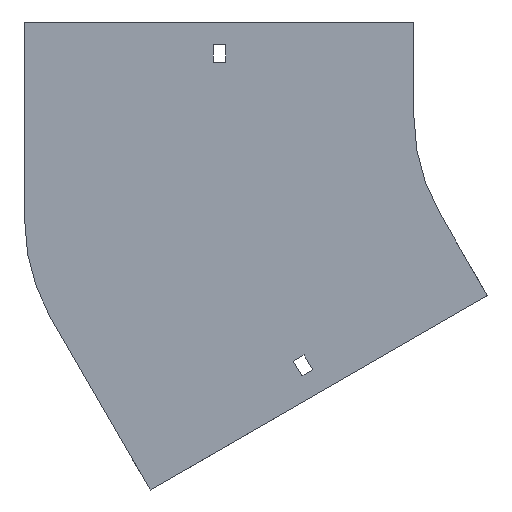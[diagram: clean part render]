
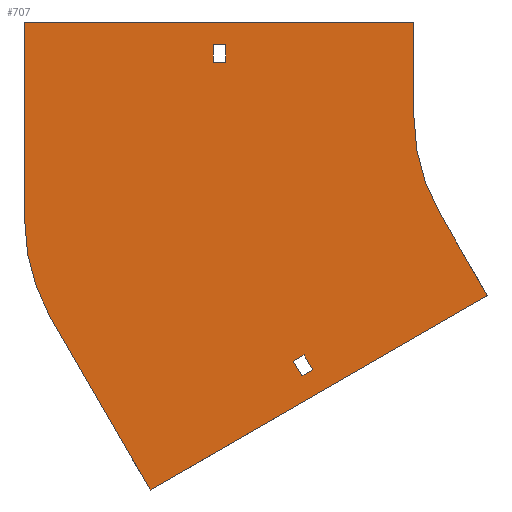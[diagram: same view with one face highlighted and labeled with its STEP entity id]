
A CAD part, front view. The second image highlights one B-rep face of the part: STEP entity #707.
In plain terms, the highlighted planar face has unit normal (0, -1, 0).
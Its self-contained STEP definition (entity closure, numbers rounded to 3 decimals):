
#18 = EDGE_LOOP ( 'NONE', ( #1804, #112, #1460, #864 ) ) ;
#42 = CARTESIAN_POINT ( 'NONE',  ( 0., 0., 0. ) ) ;
#53 = CARTESIAN_POINT ( 'NONE',  ( -157.623, 0., -124.49 ) ) ;
#59 = CARTESIAN_POINT ( 'NONE',  ( -238.272, 0., -195.301 ) ) ;
#63 = EDGE_CURVE ( 'NONE', #1700, #638, #305, .T. ) ;
#77 = CARTESIAN_POINT ( 'NONE',  ( -100., 0., 50. ) ) ;
#90 = VERTEX_POINT ( 'NONE', #1204 ) ;
#105 = LINE ( 'NONE', #1760, #539 ) ;
#112 = ORIENTED_EDGE ( 'NONE', *, *, #1373, .T. ) ;
#114 = CARTESIAN_POINT ( 'NONE',  ( -304., 0., 50. ) ) ;
#123 = CARTESIAN_POINT ( 'NONE',  ( -153.123, 0., -132.284 ) ) ;
#127 = VERTEX_POINT ( 'NONE', #212 ) ;
#132 = CARTESIAN_POINT ( 'NONE',  ( -205.25, 0., 38. ) ) ;
#148 = DIRECTION ( 'NONE',  ( 0., 0., -1. ) ) ;
#149 = LINE ( 'NONE', #447, #1203 ) ;
#151 = DIRECTION ( 'NONE',  ( -0.5, 0., 0.866 ) ) ;
#156 = EDGE_CURVE ( 'NONE', #685, #1714, #834, .T. ) ;
#195 = CARTESIAN_POINT ( 'NONE',  ( -205.25, 0., 29. ) ) ;
#199 = VECTOR ( 'NONE', #1859, 1000. ) ;
#212 = CARTESIAN_POINT ( 'NONE',  ( -205.25, 0., 29. ) ) ;
#242 = VECTOR ( 'NONE', #475, 1000. ) ;
#260 = ORIENTED_EDGE ( 'NONE', *, *, #63, .F. ) ;
#266 = EDGE_CURVE ( 'NONE', #90, #525, #105, .T. ) ;
#279 = CARTESIAN_POINT ( 'NONE',  ( -100., 0., 50. ) ) ;
#285 = CIRCLE ( 'NONE', #1296, 100. ) ;
#293 = DIRECTION ( 'NONE',  ( 0.866, 0., 0.5 ) ) ;
#300 = PLANE ( 'NONE',  #1785 ) ;
#305 = LINE ( 'NONE', #627, #1344 ) ;
#316 = VERTEX_POINT ( 'NONE', #550 ) ;
#349 = VECTOR ( 'NONE', #1086, 1000. ) ;
#360 = EDGE_CURVE ( 'NONE', #735, #316, #1752, .T. ) ;
#361 = ORIENTED_EDGE ( 'NONE', *, *, #1485, .F. ) ;
#397 = EDGE_CURVE ( 'NONE', #316, #1700, #1345, .T. ) ;
#398 = CARTESIAN_POINT ( 'NONE',  ( -86.603, 0., -50. ) ) ;
#400 = CARTESIAN_POINT ( 'NONE',  ( -163.252, 0., -127.74 ) ) ;
#409 = VECTOR ( 'NONE', #972, 1000. ) ;
#436 = VERTEX_POINT ( 'NONE', #767 ) ;
#445 = EDGE_CURVE ( 'NONE', #1388, #436, #1510, .T. ) ;
#447 = CARTESIAN_POINT ( 'NONE',  ( -163.252, 0., -127.74 ) ) ;
#456 = EDGE_CURVE ( 'NONE', #1575, #1049, #1672, .T. ) ;
#471 = LINE ( 'NONE', #928, #349 ) ;
#475 = DIRECTION ( 'NONE',  ( -1., 0., 0. ) ) ;
#499 = DIRECTION ( 'NONE',  ( 0., -1., 0. ) ) ;
#525 = VERTEX_POINT ( 'NONE', #831 ) ;
#539 = VECTOR ( 'NONE', #1775, 1000. ) ;
#550 = CARTESIAN_POINT ( 'NONE',  ( -158.752, 0., -135.534 ) ) ;
#568 = ORIENTED_EDGE ( 'NONE', *, *, #1659, .F. ) ;
#570 = EDGE_LOOP ( 'NONE', ( #568, #1629, #361, #1284, #1717, #1365, #732, #985 ) ) ;
#574 = EDGE_LOOP ( 'NONE', ( #635, #1290, #1249, #260 ) ) ;
#594 = FACE_BOUND ( 'NONE', #18, .T. ) ;
#598 = DIRECTION ( 'NONE',  ( -0.866, 0., -0.5 ) ) ;
#627 = CARTESIAN_POINT ( 'NONE',  ( -157.623, 0., -124.49 ) ) ;
#635 = ORIENTED_EDGE ( 'NONE', *, *, #397, .F. ) ;
#638 = VERTEX_POINT ( 'NONE', #53 ) ;
#653 = DIRECTION ( 'NONE',  ( -0.5, 0., 0.866 ) ) ;
#682 = CARTESIAN_POINT ( 'NONE',  ( -204., 0., -54.662 ) ) ;
#685 = VERTEX_POINT ( 'NONE', #279 ) ;
#707 = ADVANCED_FACE ( 'NONE', ( #594, #1650, #1940 ), #300, .T. ) ;
#716 = VECTOR ( 'NONE', #954, 1000. ) ;
#732 = ORIENTED_EDGE ( 'NONE', *, *, #1759, .F. ) ;
#735 = VERTEX_POINT ( 'NONE', #882 ) ;
#765 = EDGE_CURVE ( 'NONE', #127, #1658, #1853, .T. ) ;
#767 = CARTESIAN_POINT ( 'NONE',  ( -238.272, 0., -195.301 ) ) ;
#777 = CARTESIAN_POINT ( 'NONE',  ( -158.752, 0., -135.534 ) ) ;
#822 = CARTESIAN_POINT ( 'NONE',  ( -290.603, 0., -104.662 ) ) ;
#831 = CARTESIAN_POINT ( 'NONE',  ( -304., 0., 50. ) ) ;
#834 = LINE ( 'NONE', #77, #409 ) ;
#864 = ORIENTED_EDGE ( 'NONE', *, *, #1017, .T. ) ;
#875 = EDGE_CURVE ( 'NONE', #436, #1930, #1507, .T. ) ;
#882 = CARTESIAN_POINT ( 'NONE',  ( -163.252, 0., -127.74 ) ) ;
#928 = CARTESIAN_POINT ( 'NONE',  ( -205.25, 0., 38. ) ) ;
#936 = DIRECTION ( 'NONE',  ( -0.866, 0., -0.5 ) ) ;
#944 = VECTOR ( 'NONE', #1466, 1000. ) ;
#954 = DIRECTION ( 'NONE',  ( 0., 0., 1. ) ) ;
#972 = DIRECTION ( 'NONE',  ( 0., 0., -1. ) ) ;
#979 = VECTOR ( 'NONE', #148, 1000. ) ;
#985 = ORIENTED_EDGE ( 'NONE', *, *, #156, .F. ) ;
#1017 = EDGE_CURVE ( 'NONE', #1049, #127, #1826, .T. ) ;
#1048 = VECTOR ( 'NONE', #1809, 1000. ) ;
#1049 = VERTEX_POINT ( 'NONE', #1151 ) ;
#1063 = CARTESIAN_POINT ( 'NONE',  ( 0., 0., 0. ) ) ;
#1066 = CARTESIAN_POINT ( 'NONE',  ( -86.603, 0., -50. ) ) ;
#1086 = DIRECTION ( 'NONE',  ( 1., 0., 0. ) ) ;
#1102 = VECTOR ( 'NONE', #293, 1000. ) ;
#1151 = CARTESIAN_POINT ( 'NONE',  ( -198.75, 0., 29. ) ) ;
#1200 = CARTESIAN_POINT ( 'NONE',  ( -61.603, 0., -93.301 ) ) ;
#1203 = VECTOR ( 'NONE', #598, 1000. ) ;
#1204 = CARTESIAN_POINT ( 'NONE',  ( -304., 0., -54.662 ) ) ;
#1248 = VECTOR ( 'NONE', #653, 1000. ) ;
#1249 = ORIENTED_EDGE ( 'NONE', *, *, #1609, .F. ) ;
#1284 = ORIENTED_EDGE ( 'NONE', *, *, #875, .F. ) ;
#1286 = DIRECTION ( 'NONE',  ( 0., 0., 1. ) ) ;
#1290 = ORIENTED_EDGE ( 'NONE', *, *, #360, .F. ) ;
#1296 = AXIS2_PLACEMENT_3D ( 'NONE', #682, #1884, #1286 ) ;
#1301 = CIRCLE ( 'NONE', #1902, 100. ) ;
#1303 = DIRECTION ( 'NONE',  ( 0., -1., 0. ) ) ;
#1344 = VECTOR ( 'NONE', #151, 1000. ) ;
#1345 = LINE ( 'NONE', #777, #1102 ) ;
#1365 = ORIENTED_EDGE ( 'NONE', *, *, #1928, .F. ) ;
#1373 = EDGE_CURVE ( 'NONE', #1658, #1575, #471, .T. ) ;
#1388 = VERTEX_POINT ( 'NONE', #1710 ) ;
#1439 = LINE ( 'NONE', #398, #199 ) ;
#1460 = ORIENTED_EDGE ( 'NONE', *, *, #456, .T. ) ;
#1466 = DIRECTION ( 'NONE',  ( 0.5, 0., -0.866 ) ) ;
#1474 = LINE ( 'NONE', #114, #1048 ) ;
#1485 = EDGE_CURVE ( 'NONE', #1930, #90, #285, .T. ) ;
#1490 = CARTESIAN_POINT ( 'NONE',  ( -198.75, 0., 29. ) ) ;
#1507 = LINE ( 'NONE', #59, #1248 ) ;
#1510 = LINE ( 'NONE', #1200, #1603 ) ;
#1575 = VERTEX_POINT ( 'NONE', #1590 ) ;
#1590 = CARTESIAN_POINT ( 'NONE',  ( -198.75, 0., 38. ) ) ;
#1603 = VECTOR ( 'NONE', #936, 1000. ) ;
#1609 = EDGE_CURVE ( 'NONE', #638, #735, #149, .T. ) ;
#1629 = ORIENTED_EDGE ( 'NONE', *, *, #266, .F. ) ;
#1640 = DIRECTION ( 'NONE',  ( 0., 0., -1. ) ) ;
#1650 = FACE_OUTER_BOUND ( 'NONE', #570, .T. ) ;
#1658 = VERTEX_POINT ( 'NONE', #132 ) ;
#1659 = EDGE_CURVE ( 'NONE', #525, #685, #1474, .T. ) ;
#1672 = LINE ( 'NONE', #1490, #979 ) ;
#1694 = DIRECTION ( 'NONE',  ( 0., 0., -1. ) ) ;
#1700 = VERTEX_POINT ( 'NONE', #123 ) ;
#1710 = CARTESIAN_POINT ( 'NONE',  ( -61.603, 0., -93.301 ) ) ;
#1714 = VERTEX_POINT ( 'NONE', #1776 ) ;
#1717 = ORIENTED_EDGE ( 'NONE', *, *, #445, .F. ) ;
#1752 = LINE ( 'NONE', #400, #944 ) ;
#1759 = EDGE_CURVE ( 'NONE', #1714, #1779, #1301, .T. ) ;
#1760 = CARTESIAN_POINT ( 'NONE',  ( -304., 0., -54.662 ) ) ;
#1775 = DIRECTION ( 'NONE',  ( 0., 0., 1. ) ) ;
#1776 = CARTESIAN_POINT ( 'NONE',  ( -100., 0., 0. ) ) ;
#1779 = VERTEX_POINT ( 'NONE', #1066 ) ;
#1785 = AXIS2_PLACEMENT_3D ( 'NONE', #1063, #1303, #1640 ) ;
#1804 = ORIENTED_EDGE ( 'NONE', *, *, #765, .T. ) ;
#1809 = DIRECTION ( 'NONE',  ( 1., 0., 0. ) ) ;
#1826 = LINE ( 'NONE', #1836, #242 ) ;
#1836 = CARTESIAN_POINT ( 'NONE',  ( -205.25, 0., 29. ) ) ;
#1853 = LINE ( 'NONE', #195, #716 ) ;
#1859 = DIRECTION ( 'NONE',  ( 0.5, 0., -0.866 ) ) ;
#1884 = DIRECTION ( 'NONE',  ( 0., 1., 0. ) ) ;
#1902 = AXIS2_PLACEMENT_3D ( 'NONE', #42, #499, #1694 ) ;
#1928 = EDGE_CURVE ( 'NONE', #1779, #1388, #1439, .T. ) ;
#1930 = VERTEX_POINT ( 'NONE', #822 ) ;
#1940 = FACE_BOUND ( 'NONE', #574, .T. ) ;
